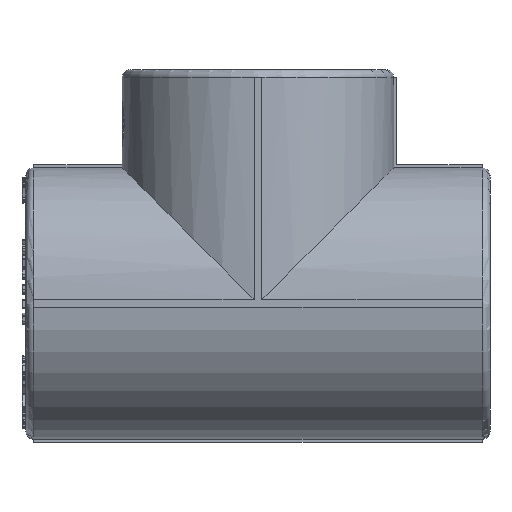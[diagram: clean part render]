
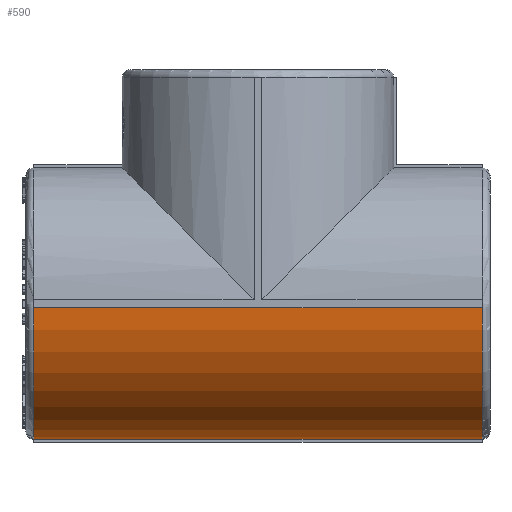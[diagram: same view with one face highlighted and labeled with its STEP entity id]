
A CAD part, left-side view. The second image highlights one B-rep face of the part: STEP entity #590.
In plain terms, the highlighted cylindrical face has radius 17.25 mm (diameter 34.5 mm), a partial arc.
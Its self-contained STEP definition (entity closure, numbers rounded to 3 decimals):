
#590=ADVANCED_FACE('',(#4606),#4608,.T.);
#4606=FACE_BOUND('',#4607,.T.);
#4607=EDGE_LOOP('',(#11975,#11976,#11977,#11978));
#4608=CYLINDRICAL_SURFACE('',#4609,17.25);
#4609=AXIS2_PLACEMENT_3D('',#4610,#4611,#4612);
#4610=CARTESIAN_POINT('',(0.,-29.5,0.));
#4611=DIRECTION('',(0.,1.,0.));
#4612=DIRECTION('',(-1.,0.,0.));
#11975=ORIENTED_EDGE('',*,*,#17215,.F.);
#11976=ORIENTED_EDGE('',*,*,#17216,.T.);
#11977=ORIENTED_EDGE('',*,*,#17217,.F.);
#11978=ORIENTED_EDGE('',*,*,#17186,.F.);
#17186=EDGE_CURVE('',#21117,#21119,#21120,.T.);
#17215=EDGE_CURVE('',#21168,#21117,#21169,.T.);
#17216=EDGE_CURVE('',#21168,#21170,#21171,.T.);
#17217=EDGE_CURVE('',#21119,#21170,#21172,.F.);
#21117=VERTEX_POINT('',#28998);
#21119=VERTEX_POINT('',#29003);
#21120=CIRCLE('',#29004,17.25);
#21168=VERTEX_POINT('',#29120);
#21169=LINE('',#29121,#29122);
#21170=VERTEX_POINT('',#29124);
#21171=CIRCLE('',#29125,17.25);
#21172=LINE('',#29129,#29130);
#28998=CARTESIAN_POINT('',(-0.5,28.5,-17.243));
#29003=CARTESIAN_POINT('',(-17.243,28.5,-0.5));
#29004=AXIS2_PLACEMENT_3D('',#29005,#29006,#29007);
#29005=CARTESIAN_POINT('',(0.,28.5,0.));
#29006=DIRECTION('',(0.,1.,0.));
#29007=DIRECTION('',(-0.029,0.,-1.));
#29120=CARTESIAN_POINT('',(-0.5,-28.5,-17.243));
#29121=CARTESIAN_POINT('',(-0.5,-28.5,-17.243));
#29122=VECTOR('',#29123,1.);
#29123=DIRECTION('',(0.,1.,0.));
#29124=CARTESIAN_POINT('',(-17.243,-28.5,-0.5));
#29125=AXIS2_PLACEMENT_3D('',#29126,#29127,#29128);
#29126=CARTESIAN_POINT('',(0.,-28.5,0.));
#29127=DIRECTION('',(0.,1.,0.));
#29128=DIRECTION('',(-0.029,0.,-1.));
#29129=CARTESIAN_POINT('',(-17.243,-28.5,-0.5));
#29130=VECTOR('',#29131,1.);
#29131=DIRECTION('',(0.,1.,0.));
